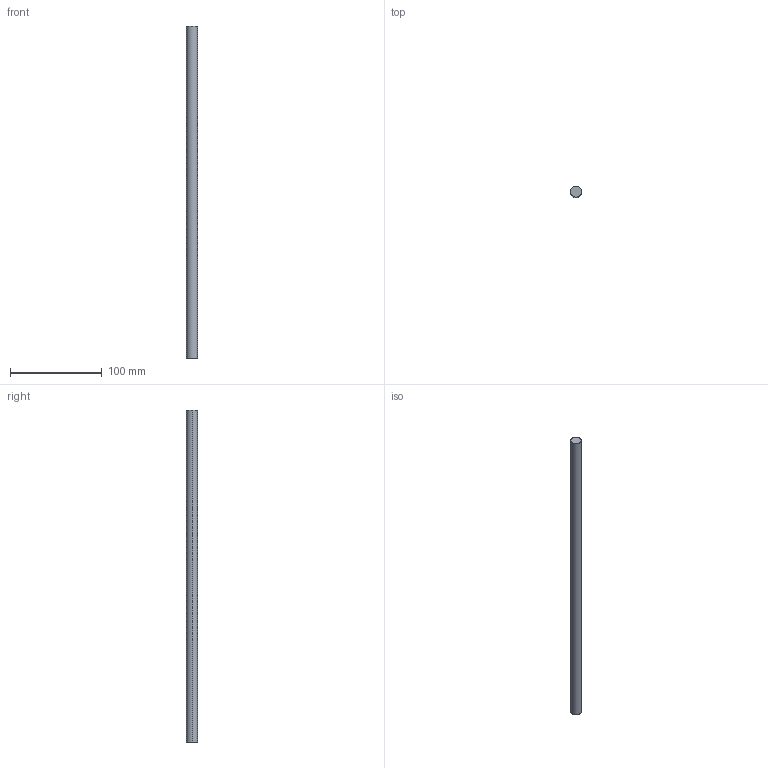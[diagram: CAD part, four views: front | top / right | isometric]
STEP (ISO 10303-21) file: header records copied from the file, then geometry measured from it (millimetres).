
FILE_DESCRIPTION (( 'STEP AP214' ), '1' );
FILE_NAME ('Magic Reling längs - 400.step', '2010-09-07T14:56:16', ( 'grass' ), ( '' ), 'SwSTEP 2.0', 'SolidWorks 2010', '' );
FILE_SCHEMA (( 'AUTOMOTIVE_DESIGN' ));
Length unit declared in the file: millimetre
Products named in the file (1): Magic Reling längs - 400
Bounding box: 12 x 12 x 362 mm (x, y, z)
Volume: 40941.2 mm3; surface area: 13873.3 mm2
Topology: 1 solids, 1 shells, 4 faces, 6 edges, 4 vertices
Faces by surface type: cylinder 2, plane 2
Entity records: 128 total; most frequent: DIRECTION 20, CARTESIAN_POINT 15, ORIENTED_EDGE 12, AXIS2_PLACEMENT_3D 9, EDGE_CURVE 6, FACE_OUTER_BOUND 4, EDGE_LOOP 4, CIRCLE 4
